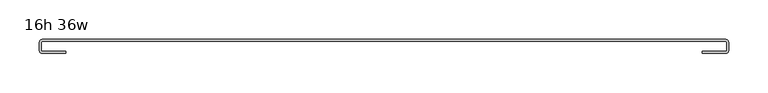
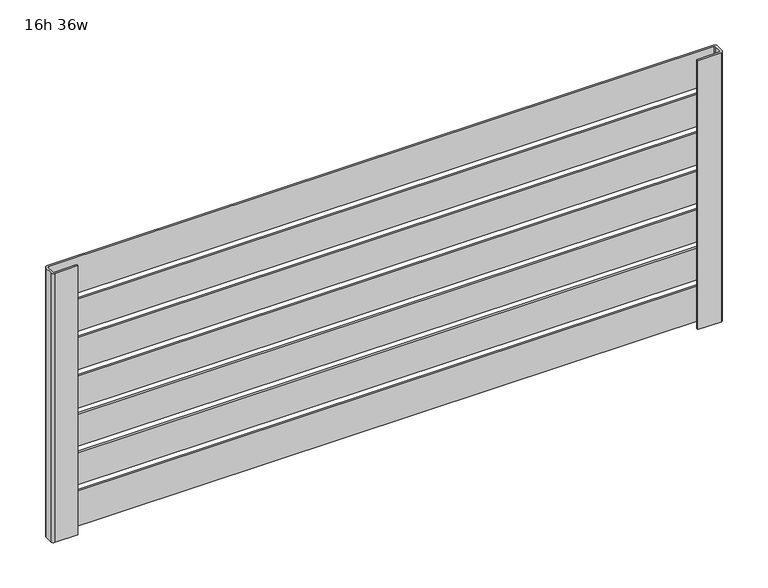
"""IFC4 building model written with IfcOpenShell, lengths in millimetres: furniture geometry, Haworth_BeHold_Accessory_SlatRail : 16h 36w."""

import ifcopenshell
import ifcopenshell.guid

model = None  # the IFC model being written
_history = None  # IfcOwnerHistory: only IFC2X3 demands one
_inside = {}  # id of a spatial element -> (the spatial element, [elements in it])
_under = {}  # id of a project, library or spatial element -> (it, [spatial elements below it])
_declared = {}  # id of a project -> (the project, [libraries it declares])
_typed = {}  # id of a type object -> (the type object, [elements of that type])
_made_of = {}  # id of a material, layer set ... -> (it, [elements and type objects made of it])


def new_model(schema):
    """Start an empty IFC model of exactly this schema.

    Asked for "IFC4X3", IfcOpenShell would pick the latest addendum, in which some entities
    have other attributes; the version numbers below select the first issue.
    IFC2X3 requires an IfcOwnerHistory on every rooted entity: one is made here for all.
    """
    global model, _history
    if schema == "IFC4X3":
        model = ifcopenshell.file(schema_version=(4, 3, 0, 0))
    else:
        model = ifcopenshell.file(schema=schema)
    _inside.clear()
    _under.clear()
    _declared.clear()
    _typed.clear()
    _made_of.clear()
    _history = None
    if model.schema == "IFC2X3":
        org = make("IfcOrganization", Name="unknown")
        user = make(
            "IfcPersonAndOrganization",
            ThePerson=make("IfcPerson", FamilyName="unknown"),
            TheOrganization=org,
        )
        app = make(
            "IfcApplication",
            ApplicationDeveloper=org,
            Version="unknown",
            ApplicationFullName="unknown",
            ApplicationIdentifier="unknown",
        )
        _history = make(
            "IfcOwnerHistory",
            OwningUser=user,
            OwningApplication=app,
            ChangeAction="ADDED",
            CreationDate=0,
        )
    return model


def make(cls, **values):
    """One entity of the class cls with the attributes given. An attribute that is None is left unset."""
    return model.create_entity(
        cls, **{name: value for name, value in values.items() if value is not None}
    )


def rooted(cls, **values):
    """An entity with a GlobalId (a new one), such as an element, a storey or a relation."""
    return make(cls, GlobalId=ifcopenshell.guid.new(), OwnerHistory=_history, **values)


def si_unit(unit_type, name, prefix=None):
    """IfcSIUnit, for example si_unit("LENGTHUNIT", "METRE", prefix="MILLI")."""
    return make("IfcSIUnit", UnitType=unit_type, Prefix=prefix, Name=name)


def assignment(units):
    """IfcUnitAssignment: the units of a project."""
    return None if units is None else make("IfcUnitAssignment", Units=units)


def point(xyz):
    """IfcCartesianPoint."""
    return None if xyz is None else make("IfcCartesianPoint", Coordinates=xyz)


def direction(xyz):
    """IfcDirection."""
    return None if xyz is None else make("IfcDirection", DirectionRatios=xyz)


def frame(location, z_axis=None, x_axis=None):
    """IfcAxis2Placement3D, a coordinate frame: its origin and axes. An axis left out is left unset."""
    return make(
        "IfcAxis2Placement3D",
        Location=point(location),
        Axis=direction(z_axis),
        RefDirection=direction(x_axis),
    )


def origin():
    """The frame at (0, 0, 0) with its axes left unset."""
    return frame((0.0, 0.0, 0.0))


def place(relative_to, where):
    """IfcLocalPlacement: puts the frame where relative to a parent placement (None: the world)."""
    return make(
        "IfcLocalPlacement", PlacementRelTo=relative_to, RelativePlacement=where
    )


def context(
    kind, dimensions, precision=None, world=None, true_north=None, identifier=None
):
    """IfcGeometricRepresentationContext, for example the 3D "Model" context."""
    return make(
        "IfcGeometricRepresentationContext",
        ContextIdentifier=identifier,
        ContextType=kind,
        CoordinateSpaceDimension=dimensions,
        Precision=precision,
        WorldCoordinateSystem=world,
        TrueNorth=true_north,
    )


def project(units=None, contexts=None):
    """IfcProject with its units and contexts."""
    return rooted(
        "IfcProject",
        Name="project",
        RepresentationContexts=contexts,
        UnitsInContext=assignment(units),
    )


def spatial(cls, under=None, at=None, **own):
    """A site, building, storey or space (cls), placed at a placement, below another one or the project."""
    s = rooted(cls, ObjectPlacement=at, **own)
    if under is not None:
        _under.setdefault(under.id(), (under, []))[1].append(s)
    return s


def polyline(points):
    """IfcPolyline through the points."""
    return make("IfcPolyline", Points=[point(p) for p in points])


def circle_curve(where, radius):
    """IfcCircle in the frame where."""
    return make("IfcCircle", Position=where, Radius=radius)


def shape(context_of_items, identifier, shape_type, items):
    """IfcShapeRepresentation: the items that make up one representation, for example the "Body"."""
    return make(
        "IfcShapeRepresentation",
        ContextOfItems=context_of_items,
        RepresentationIdentifier=identifier,
        RepresentationType=shape_type,
        Items=items,
    )


def source(mapping_origin, context_of_items, identifier, shape_type, items):
    """IfcRepresentationMap: a shape defined once, which mapped items show again and again."""
    return make(
        "IfcRepresentationMap",
        MappingOrigin=mapping_origin,
        MappedRepresentation=shape(context_of_items, identifier, shape_type, items),
    )


def transform(
    local_origin,
    x_axis=None,
    y_axis=None,
    z_axis=None,
    scale=None,
    scale2=None,
    scale3=None,
    uniform=True,
):
    """IfcCartesianTransformationOperator3D, or its non-uniform kind. x_axis, y_axis, z_axis: its Axis1, 2, 3."""
    if uniform:
        return make(
            "IfcCartesianTransformationOperator3D",
            Axis1=direction(x_axis),
            Axis2=direction(y_axis),
            LocalOrigin=point(local_origin),
            Scale=scale,
            Axis3=direction(z_axis),
        )
    return make(
        "IfcCartesianTransformationOperator3DnonUniform",
        Axis1=direction(x_axis),
        Axis2=direction(y_axis),
        LocalOrigin=point(local_origin),
        Scale=scale,
        Axis3=direction(z_axis),
        Scale2=scale2,
        Scale3=scale3,
    )


def mapped(mapping_source, mapping_target):
    """IfcMappedItem: shows the shape of a source again, moved by a transform."""
    return make(
        "IfcMappedItem", MappingSource=mapping_source, MappingTarget=mapping_target
    )


def made_of(thing, what):
    """Note that an element or type object is made of a material, layer set ...; save() writes the relation."""
    if what is not None:
        _made_of.setdefault(what.id(), (what, []))[1].append(thing)
    return thing


def element(
    cls,
    number,
    at=None,
    inside=None,
    cuts=None,
    type_object=None,
    material=None,
    context=None,
    identifier="Body",
    shape_type=None,
    held_by="IfcProductDefinitionShape",
    body=None,
    shapes=None,
    **own,
):
    """One element of the class cls, such as IfcWall. Its Tag is "e" and its number.

    at: its placement. inside: the storey or other place that contains it. cuts: it is an
    opening in that element (IfcRelVoidsElement). A single representation is given by context,
    identifier, shape_type and body (its items); several are given by shapes. held_by: the class
    of the entity that holds the representations. save() writes the other relations.
    """
    e = rooted(cls, Tag="e%d" % number, ObjectPlacement=at, **own)
    if body is not None:
        shapes = [shape(context, identifier, shape_type, body)]
    if shapes is not None:
        e.Representation = make(held_by, Representations=shapes)
    if inside is not None:
        _inside.setdefault(inside.id(), (inside, []))[1].append(e)
    if cuts is not None:
        rooted(
            "IfcRelVoidsElement", RelatingBuildingElement=cuts, RelatedOpeningElement=e
        )
    if type_object is not None:
        _typed.setdefault(type_object.id(), (type_object, []))[1].append(e)
    return made_of(e, material)


def aggregate(whole, parts):
    """IfcRelAggregates: a whole, such as a stair, and the parts it consists of."""
    return rooted("IfcRelAggregates", RelatingObject=whole, RelatedObjects=parts)


def save(model, path):
    """Write the relations noted so far, then the file.

    IfcRelAggregates (storeys below a building ...), IfcRelContainedInSpatialStructure (elements
    in a storey), IfcRelDefinesByType, IfcRelAssociatesMaterial and IfcRelDeclares: one each for
    every whole, place, type object, material and project.
    """
    for whole, parts in _under.values():
        aggregate(whole, parts)
    for where, things in _inside.values():
        rooted(
            "IfcRelContainedInSpatialStructure",
            RelatedElements=things,
            RelatingStructure=where,
        )
    for kind, things in _typed.values():
        rooted("IfcRelDefinesByType", RelatedObjects=things, RelatingType=kind)
    for what, things in _made_of.values():
        rooted("IfcRelAssociatesMaterial", RelatedObjects=things, RelatingMaterial=what)
    for by, libraries in _declared.values():
        rooted("IfcRelDeclares", RelatingContext=by, RelatedDefinitions=libraries)
    model.write(path)


def plane_surface(at):
    """IfcPlane: the flat surface through the origin of the frame at, square to its z axis."""
    return make("IfcPlane", Position=at)


def cylinder_surface(at, radius):
    """IfcCylindricalSurface: all points at the distance radius from the z axis of the frame at."""
    return make("IfcCylindricalSurface", Position=at, Radius=radius)


def revolved_surface(curve, axis_point, axis_direction):
    """IfcSurfaceOfRevolution: the curve turned about the line through axis_point along axis_direction."""
    return make(
        "IfcSurfaceOfRevolution",
        SweptCurve=make("IfcArbitraryOpenProfileDef", ProfileType="CURVE", Curve=curve),
        AxisPosition=make("IfcAxis1Placement", Location=point(axis_point), Axis=direction(axis_direction)),
    )


def advanced_brep(points, edges, surfaces, faces):
    """IfcAdvancedBrep: a solid bounded by faces that lie on surfaces and meet in shared edges.

    An edge is (start, end): straight between two places in points (the first is 0);
    or (start, end, curve); or (start, end, curve, False) where it runs against its curve.
    A face is (place in surfaces, loops), or (place, loops, False) where it looks against
    its surface's normal. A loop lists edges by number (the first is 1), with a minus sign
    where the edge is run from its end to its start. The first loop is the outer one.
    """
    corners = [point(p) for p in points]
    vertices = [make("IfcVertexPoint", VertexGeometry=c) for c in corners]
    made = []
    for start, end, *more in edges:
        made.append(
            make(
                "IfcEdgeCurve",
                EdgeStart=vertices[start],
                EdgeEnd=vertices[end],
                EdgeGeometry=more[0] if more else make("IfcPolyline", Points=[corners[start], corners[end]]),
                SameSense=more[1] if len(more) > 1 else True,
            )
        )
    hull = []
    for where, loops, *sense in faces:
        bounds = []
        for j, loop in enumerate(loops):
            ring = [make("IfcOrientedEdge", EdgeElement=made[abs(k) - 1], Orientation=k > 0) for k in loop]
            bounds.append(
                make(
                    "IfcFaceOuterBound" if j == 0 else "IfcFaceBound",
                    Bound=make("IfcEdgeLoop", EdgeList=ring),
                    Orientation=True,
                )
            )
        hull.append(make("IfcAdvancedFace", Bounds=bounds, FaceSurface=surfaces[where], SameSense=sense[0] if sense else True))
    return make("IfcAdvancedBrep", Outer=make("IfcClosedShell", CfsFaces=hull))


def furniture_16h_36w_8c3512c3(model_context):
    return source(origin(), model_context, "Body", "AdvancedBrep", [
        advanced_brep(
        [(276.0322509, -285.75, 1290.6375), (277.0244384, -286.7421875, 1290.6375), (277.0244384, -297.4539983, 1290.6375), (276.0284367, -298.45, 1290.6375), (246.0645065, -298.45, 1290.6375), (246.0645065, -300.83125, 1290.6375), (276.0682534, -300.83125, 1290.6375), (279.4056884, -297.493815, 1290.6375), (279.4056884, -286.7421875, 1290.6375), (276.0322509, -283.36875, 1290.6375), (-589.7505616, -283.36875, 1290.6375), (-593.1239991, -286.7421875, 1290.6375), (-593.1239991, -297.493815, 1290.6375), (-589.7865641, -300.83125, 1290.6375), (-559.7828171, -300.83125, 1290.6375), (-559.7828171, -298.45, 1290.6375), (-589.7467474, -298.45, 1290.6375), (-590.7427491, -297.4539983, 1290.6375), (-590.7427491, -286.7421875, 1290.6375), (-589.7505616, -285.75, 1290.6375), (276.0322509, -285.75, 920.75), (-589.7505616, -285.75, 920.75), (-590.7427491, -286.7421875, 920.75), (-590.7427491, -297.4539983, 920.75), (-589.7467474, -298.45, 920.75), (-559.7828171, -298.45, 920.75), (-559.7828171, -300.83125, 920.75), (-589.7865641, -300.83125, 920.75), (-593.1239991, -297.493815, 920.75), (-593.1239991, -286.7421875, 920.75), (-589.7505616, -283.36875, 920.75), (276.0322509, -283.36875, 920.75), (279.4056884, -286.7421875, 920.75), (279.4056884, -297.493815, 920.75), (276.0682534, -300.83125, 920.75), (246.0645065, -300.83125, 920.75), (246.0645065, -298.45, 920.75), (276.0284367, -298.45, 920.75), (277.0244384, -297.4539983, 920.75), (277.0244384, -286.7421875, 920.75), (-566.9137772, -283.36875, 1127.1885438), (253.1954665, -283.36875, 1127.1885438), (255.5767165, -283.36875, 1129.5697938), (255.5767165, -283.36875, 1133.0622951), (253.1954665, -283.36875, 1135.4435451), (-566.9137772, -283.36875, 1135.4435451), (-569.2950272, -283.36875, 1133.0622951), (-569.2950272, -283.36875, 1129.5697938), (-566.9137772, -283.36875, 1074.3565443), (253.1954665, -283.36875, 1074.3565443), (255.5767165, -283.36875, 1076.7377943), (255.5767165, -283.36875, 1080.2302955), (253.1954665, -283.36875, 1082.6115455), (-566.9137772, -283.36875, 1082.6115455), (-569.2950272, -283.36875, 1080.2302955), (-569.2950272, -283.36875, 1076.7377943), (-566.9137772, -283.36875, 1021.5245447), (253.1954665, -283.36875, 1021.5245447), (255.5767165, -283.36875, 1023.9057947), (255.5767165, -283.36875, 1027.3982959), (253.1954665, -283.36875, 1029.7795459), (-566.9137772, -283.36875, 1029.7795459), (-569.2950272, -283.36875, 1027.3982959), (-569.2950272, -283.36875, 1023.9057947), (-566.9137772, -283.36875, 968.6925428), (253.1954665, -283.36875, 968.6925428), (255.5767165, -283.36875, 971.0737928), (255.5767165, -283.36875, 974.5662941), (253.1954665, -283.36875, 976.9475441), (-566.9137772, -283.36875, 976.9475441), (-569.2950272, -283.36875, 974.5662941), (-569.2950272, -283.36875, 971.0737928), (-566.9137772, -283.36875, 1180.020548), (253.1954665, -283.36875, 1180.020548), (255.5767165, -283.36875, 1182.401798), (255.5767165, -283.36875, 1185.8942992), (253.1954665, -283.36875, 1188.2755492), (-566.9137772, -283.36875, 1188.2755492), (-569.2950272, -283.36875, 1185.8942992), (-569.2950272, -283.36875, 1182.401798), (-566.9137772, -283.36875, 1232.8525521), (253.1954665, -283.36875, 1232.8525521), (255.5767165, -283.36875, 1235.2338021), (255.5767165, -283.36875, 1238.7263033), (253.1954665, -283.36875, 1241.1075533), (-566.9137772, -283.36875, 1241.1075533), (-569.2950272, -283.36875, 1238.7263033), (-569.2950272, -283.36875, 1235.2338021), (253.1954665, -285.75, 1127.1885438), (-566.9137772, -285.75, 1127.1885438), (-569.2950272, -285.75, 1129.5697938), (-569.2950272, -285.75, 1133.0622951), (-566.9137772, -285.75, 1135.4435451), (253.1954665, -285.75, 1135.4435451), (255.5767165, -285.75, 1133.0622951), (255.5767165, -285.75, 1129.5697938), (253.1954665, -285.75, 1074.3565443), (-566.9137772, -285.75, 1074.3565443), (-569.2950272, -285.75, 1076.7377943), (-569.2950272, -285.75, 1080.2302955), (-566.9137772, -285.75, 1082.6115455), (253.1954665, -285.75, 1082.6115455), (255.5767165, -285.75, 1080.2302955), (255.5767165, -285.75, 1076.7377943), (253.1954665, -285.75, 1021.5245447), (-566.9137772, -285.75, 1021.5245447), (-569.2950272, -285.75, 1023.9057947), (-569.2950272, -285.75, 1027.3982959), (-566.9137772, -285.75, 1029.7795459), (253.1954665, -285.75, 1029.7795459), (255.5767165, -285.75, 1027.3982959), (255.5767165, -285.75, 1023.9057947), (253.1954665, -285.75, 968.6925428), (-566.9137772, -285.75, 968.6925428), (-569.2950272, -285.75, 971.0737928), (-569.2950272, -285.75, 974.5662941), (-566.9137772, -285.75, 976.9475441), (253.1954665, -285.75, 976.9475441), (255.5767165, -285.75, 974.5662941), (255.5767165, -285.75, 971.0737928), (253.1954665, -285.75, 1180.020548), (-566.9137772, -285.75, 1180.020548), (-569.2950272, -285.75, 1182.401798), (-569.2950272, -285.75, 1185.8942992), (-566.9137772, -285.75, 1188.2755492), (253.1954665, -285.75, 1188.2755492), (255.5767165, -285.75, 1185.8942992), (255.5767165, -285.75, 1182.401798), (253.1954665, -285.75, 1232.8525521), (-566.9137772, -285.75, 1232.8525521), (-569.2950272, -285.75, 1235.2338021), (-569.2950272, -285.75, 1238.7263033), (-566.9137772, -285.75, 1241.1075533), (253.1954665, -285.75, 1241.1075533), (255.5767165, -285.75, 1238.7263033), (255.5767165, -285.75, 1235.2338021)],
        [
            (0, 1, circle_curve(frame((276.0322509, -286.7421875, 1290.6375), z_axis=(0.0, 0.0, -1.0), x_axis=(0.0, -1.0, 0.0)), 0.9921875)),
            (1, 2),
            (2, 3, circle_curve(frame((276.0284367, -297.4539983, 1290.6375), z_axis=(0.0, 0.0, -1.0), x_axis=(0.0, -1.0, 0.0)), 0.9960017)),
            (3, 4),
            (4, 5),
            (5, 6),
            (6, 7, circle_curve(frame((276.0682534, -297.493815, 1290.6375), z_axis=(0.0, 0.0, 1.0), x_axis=(0.0, -1.0, 0.0)), 3.337435)),
            (7, 8),
            (8, 9, circle_curve(frame((276.0322509, -286.7421875, 1290.6375), z_axis=(0.0, 0.0, 1.0), x_axis=(0.0, -1.0, 0.0)), 3.3734375)),
            (9, 10),
            (10, 11, circle_curve(frame((-589.7505616, -286.7421875, 1290.6375), z_axis=(0.0, 0.0, 1.0), x_axis=(0.0, -1.0, 0.0)), 3.3734375)),
            (11, 12),
            (12, 13, circle_curve(frame((-589.7865641, -297.493815, 1290.6375), z_axis=(0.0, 0.0, 1.0), x_axis=(0.0, -1.0, 0.0)), 3.337435)),
            (13, 14),
            (14, 15),
            (15, 16),
            (16, 17, circle_curve(frame((-589.7467474, -297.4539983, 1290.6375), z_axis=(0.0, 0.0, -1.0), x_axis=(0.0, -1.0, 0.0)), 0.9960017)),
            (17, 18),
            (18, 19, circle_curve(frame((-589.7505616, -286.7421875, 1290.6375), z_axis=(0.0, 0.0, -1.0), x_axis=(0.0, -1.0, 0.0)), 0.9921875)),
            (19, 0),
            (20, 21),
            (21, 22, circle_curve(frame((-589.7505616, -286.7421875, 920.75), z_axis=(0.0, 0.0, 1.0), x_axis=(0.0, -1.0, 0.0)), 0.9921875)),
            (22, 23),
            (23, 24, circle_curve(frame((-589.7467474, -297.4539983, 920.75), z_axis=(0.0, 0.0, 1.0), x_axis=(0.0, -1.0, 0.0)), 0.9960017)),
            (24, 25),
            (25, 26),
            (26, 27),
            (27, 28, circle_curve(frame((-589.7865641, -297.493815, 920.75), z_axis=(0.0, 0.0, -1.0), x_axis=(0.0, -1.0, 0.0)), 3.337435)),
            (28, 29),
            (29, 30, circle_curve(frame((-589.7505616, -286.7421875, 920.75), z_axis=(0.0, 0.0, -1.0), x_axis=(0.0, -1.0, 0.0)), 3.3734375)),
            (30, 31),
            (31, 32, circle_curve(frame((276.0322509, -286.7421875, 920.75), z_axis=(0.0, 0.0, -1.0), x_axis=(0.0, -1.0, 0.0)), 3.3734375)),
            (32, 33),
            (33, 34, circle_curve(frame((276.0682534, -297.493815, 920.75), z_axis=(0.0, 0.0, -1.0), x_axis=(0.0, -1.0, 0.0)), 3.337435)),
            (34, 35),
            (35, 36),
            (36, 37),
            (37, 38, circle_curve(frame((276.0284367, -297.4539983, 920.75), z_axis=(0.0, 0.0, 1.0), x_axis=(0.0, -1.0, 0.0)), 0.9960017)),
            (38, 39),
            (39, 20, circle_curve(frame((276.0322509, -286.7421875, 920.75), z_axis=(0.0, 0.0, 1.0), x_axis=(0.0, -1.0, 0.0)), 0.9921875)),
            (0, 20),
            (39, 1),
            (38, 2),
            (37, 3),
            (36, 4),
            (35, 5),
            (34, 6),
            (33, 7),
            (32, 8),
            (31, 9),
            (30, 10),
            (40, 41),
            (41, 42, circle_curve(frame((253.1954665, -283.36875, 1129.5697938), z_axis=(0.0, -1.0, 0.0), x_axis=(1.0, 0.0, 0.0)), 2.38125)),
            (42, 43),
            (43, 44, circle_curve(frame((253.1954665, -283.36875, 1133.0622951), z_axis=(0.0, -1.0, 0.0), x_axis=(1.0, 0.0, 0.0)), 2.38125)),
            (44, 45),
            (45, 46, circle_curve(frame((-566.9137772, -283.36875, 1133.0622951), z_axis=(0.0, -1.0, 0.0), x_axis=(1.0, 0.0, 0.0)), 2.38125)),
            (46, 47),
            (47, 40, circle_curve(frame((-566.9137772, -283.36875, 1129.5697938), z_axis=(0.0, -1.0, 0.0), x_axis=(1.0, 0.0, 0.0)), 2.38125)),
            (48, 49),
            (49, 50, circle_curve(frame((253.1954665, -283.36875, 1076.7377943), z_axis=(0.0, -1.0, 0.0), x_axis=(1.0, 0.0, 0.0)), 2.38125)),
            (50, 51),
            (51, 52, circle_curve(frame((253.1954665, -283.36875, 1080.2302955), z_axis=(0.0, -1.0, 0.0), x_axis=(1.0, 0.0, 0.0)), 2.38125)),
            (52, 53),
            (53, 54, circle_curve(frame((-566.9137772, -283.36875, 1080.2302955), z_axis=(0.0, -1.0, 0.0), x_axis=(1.0, 0.0, 0.0)), 2.38125)),
            (54, 55),
            (55, 48, circle_curve(frame((-566.9137772, -283.36875, 1076.7377943), z_axis=(0.0, -1.0, 0.0), x_axis=(1.0, 0.0, 0.0)), 2.38125)),
            (56, 57),
            (57, 58, circle_curve(frame((253.1954665, -283.36875, 1023.9057947), z_axis=(0.0, -1.0, 0.0), x_axis=(1.0, 0.0, 0.0)), 2.38125)),
            (58, 59),
            (59, 60, circle_curve(frame((253.1954665, -283.36875, 1027.3982959), z_axis=(0.0, -1.0, 0.0), x_axis=(1.0, 0.0, 0.0)), 2.38125)),
            (60, 61),
            (61, 62, circle_curve(frame((-566.9137772, -283.36875, 1027.3982959), z_axis=(0.0, -1.0, 0.0), x_axis=(1.0, 0.0, 0.0)), 2.38125)),
            (62, 63),
            (63, 56, circle_curve(frame((-566.9137772, -283.36875, 1023.9057947), z_axis=(0.0, -1.0, 0.0), x_axis=(1.0, 0.0, 0.0)), 2.38125)),
            (64, 65),
            (65, 66, circle_curve(frame((253.1954665, -283.36875, 971.0737928), z_axis=(0.0, -1.0, 0.0), x_axis=(1.0, 0.0, 0.0)), 2.38125)),
            (66, 67),
            (67, 68, circle_curve(frame((253.1954665, -283.36875, 974.5662941), z_axis=(0.0, -1.0, 0.0), x_axis=(1.0, 0.0, 0.0)), 2.38125)),
            (68, 69),
            (69, 70, circle_curve(frame((-566.9137772, -283.36875, 974.5662941), z_axis=(0.0, -1.0, 0.0), x_axis=(1.0, 0.0, 0.0)), 2.38125)),
            (70, 71),
            (71, 64, circle_curve(frame((-566.9137772, -283.36875, 971.0737928), z_axis=(0.0, -1.0, 0.0), x_axis=(1.0, 0.0, 0.0)), 2.38125)),
            (72, 73),
            (73, 74, circle_curve(frame((253.1954665, -283.36875, 1182.401798), z_axis=(0.0, -1.0, 0.0), x_axis=(1.0, 0.0, 0.0)), 2.38125)),
            (74, 75),
            (75, 76, circle_curve(frame((253.1954665, -283.36875, 1185.8942992), z_axis=(0.0, -1.0, 0.0), x_axis=(1.0, 0.0, 0.0)), 2.38125)),
            (76, 77),
            (77, 78, circle_curve(frame((-566.9137772, -283.36875, 1185.8942992), z_axis=(0.0, -1.0, 0.0), x_axis=(1.0, 0.0, 0.0)), 2.38125)),
            (78, 79),
            (79, 72, circle_curve(frame((-566.9137772, -283.36875, 1182.401798), z_axis=(0.0, -1.0, 0.0), x_axis=(1.0, 0.0, 0.0)), 2.38125)),
            (80, 81),
            (81, 82, circle_curve(frame((253.1954665, -283.36875, 1235.2338021), z_axis=(0.0, -1.0, 0.0), x_axis=(1.0, 0.0, 0.0)), 2.38125)),
            (82, 83),
            (83, 84, circle_curve(frame((253.1954665, -283.36875, 1238.7263033), z_axis=(0.0, -1.0, 0.0), x_axis=(1.0, 0.0, 0.0)), 2.38125)),
            (84, 85),
            (85, 86, circle_curve(frame((-566.9137772, -283.36875, 1238.7263033), z_axis=(0.0, -1.0, 0.0), x_axis=(1.0, 0.0, 0.0)), 2.38125)),
            (86, 87),
            (87, 80, circle_curve(frame((-566.9137772, -283.36875, 1235.2338021), z_axis=(0.0, -1.0, 0.0), x_axis=(1.0, 0.0, 0.0)), 2.38125)),
            (29, 11),
            (28, 12),
            (27, 13),
            (26, 14),
            (25, 15),
            (24, 16),
            (23, 17),
            (22, 18),
            (21, 19),
            (88, 89),
            (89, 90, circle_curve(frame((-566.9137772, -285.75, 1129.5697938), z_axis=(0.0, 1.0, 0.0), x_axis=(1.0, 0.0, 0.0)), 2.38125)),
            (90, 91),
            (91, 92, circle_curve(frame((-566.9137772, -285.75, 1133.0622951), z_axis=(0.0, 1.0, 0.0), x_axis=(1.0, 0.0, 0.0)), 2.38125)),
            (92, 93),
            (93, 94, circle_curve(frame((253.1954665, -285.75, 1133.0622951), z_axis=(0.0, 1.0, 0.0), x_axis=(1.0, 0.0, 0.0)), 2.38125)),
            (94, 95),
            (95, 88, circle_curve(frame((253.1954665, -285.75, 1129.5697938), z_axis=(0.0, 1.0, 0.0), x_axis=(1.0, 0.0, 0.0)), 2.38125)),
            (96, 97),
            (97, 98, circle_curve(frame((-566.9137772, -285.75, 1076.7377943), z_axis=(0.0, 1.0, 0.0), x_axis=(1.0, 0.0, 0.0)), 2.38125)),
            (98, 99),
            (99, 100, circle_curve(frame((-566.9137772, -285.75, 1080.2302955), z_axis=(0.0, 1.0, 0.0), x_axis=(1.0, 0.0, 0.0)), 2.38125)),
            (100, 101),
            (101, 102, circle_curve(frame((253.1954665, -285.75, 1080.2302955), z_axis=(0.0, 1.0, 0.0), x_axis=(1.0, 0.0, 0.0)), 2.38125)),
            (102, 103),
            (103, 96, circle_curve(frame((253.1954665, -285.75, 1076.7377943), z_axis=(0.0, 1.0, 0.0), x_axis=(1.0, 0.0, 0.0)), 2.38125)),
            (104, 105),
            (105, 106, circle_curve(frame((-566.9137772, -285.75, 1023.9057947), z_axis=(0.0, 1.0, 0.0), x_axis=(1.0, 0.0, 0.0)), 2.38125)),
            (106, 107),
            (107, 108, circle_curve(frame((-566.9137772, -285.75, 1027.3982959), z_axis=(0.0, 1.0, 0.0), x_axis=(1.0, 0.0, 0.0)), 2.38125)),
            (108, 109),
            (109, 110, circle_curve(frame((253.1954665, -285.75, 1027.3982959), z_axis=(0.0, 1.0, 0.0), x_axis=(1.0, 0.0, 0.0)), 2.38125)),
            (110, 111),
            (111, 104, circle_curve(frame((253.1954665, -285.75, 1023.9057947), z_axis=(0.0, 1.0, 0.0), x_axis=(1.0, 0.0, 0.0)), 2.38125)),
            (112, 113),
            (113, 114, circle_curve(frame((-566.9137772, -285.75, 971.0737928), z_axis=(0.0, 1.0, 0.0), x_axis=(1.0, 0.0, 0.0)), 2.38125)),
            (114, 115),
            (115, 116, circle_curve(frame((-566.9137772, -285.75, 974.5662941), z_axis=(0.0, 1.0, 0.0), x_axis=(1.0, 0.0, 0.0)), 2.38125)),
            (116, 117),
            (117, 118, circle_curve(frame((253.1954665, -285.75, 974.5662941), z_axis=(0.0, 1.0, 0.0), x_axis=(1.0, 0.0, 0.0)), 2.38125)),
            (118, 119),
            (119, 112, circle_curve(frame((253.1954665, -285.75, 971.0737928), z_axis=(0.0, 1.0, 0.0), x_axis=(1.0, 0.0, 0.0)), 2.38125)),
            (120, 121),
            (121, 122, circle_curve(frame((-566.9137772, -285.75, 1182.401798), z_axis=(0.0, 1.0, 0.0), x_axis=(1.0, 0.0, 0.0)), 2.38125)),
            (122, 123),
            (123, 124, circle_curve(frame((-566.9137772, -285.75, 1185.8942992), z_axis=(0.0, 1.0, 0.0), x_axis=(1.0, 0.0, 0.0)), 2.38125)),
            (124, 125),
            (125, 126, circle_curve(frame((253.1954665, -285.75, 1185.8942992), z_axis=(0.0, 1.0, 0.0), x_axis=(1.0, 0.0, 0.0)), 2.38125)),
            (126, 127),
            (127, 120, circle_curve(frame((253.1954665, -285.75, 1182.401798), z_axis=(0.0, 1.0, 0.0), x_axis=(1.0, 0.0, 0.0)), 2.38125)),
            (128, 129),
            (129, 130, circle_curve(frame((-566.9137772, -285.75, 1235.2338021), z_axis=(0.0, 1.0, 0.0), x_axis=(1.0, 0.0, 0.0)), 2.38125)),
            (130, 131),
            (131, 132, circle_curve(frame((-566.9137772, -285.75, 1238.7263033), z_axis=(0.0, 1.0, 0.0), x_axis=(1.0, 0.0, 0.0)), 2.38125)),
            (132, 133),
            (133, 134, circle_curve(frame((253.1954665, -285.75, 1238.7263033), z_axis=(0.0, 1.0, 0.0), x_axis=(1.0, 0.0, 0.0)), 2.38125)),
            (134, 135),
            (135, 128, circle_curve(frame((253.1954665, -285.75, 1235.2338021), z_axis=(0.0, 1.0, 0.0), x_axis=(1.0, 0.0, 0.0)), 2.38125)),
            (88, 41),
            (40, 89),
            (47, 90),
            (46, 91),
            (45, 92),
            (44, 93),
            (43, 94),
            (42, 95),
            (96, 49),
            (48, 97),
            (55, 98),
            (54, 99),
            (53, 100),
            (52, 101),
            (51, 102),
            (50, 103),
            (104, 57),
            (56, 105),
            (63, 106),
            (62, 107),
            (61, 108),
            (60, 109),
            (59, 110),
            (58, 111),
            (112, 65),
            (64, 113),
            (71, 114),
            (70, 115),
            (69, 116),
            (68, 117),
            (67, 118),
            (66, 119),
            (120, 73),
            (72, 121),
            (79, 122),
            (78, 123),
            (77, 124),
            (76, 125),
            (75, 126),
            (74, 127),
            (128, 81),
            (80, 129),
            (87, 130),
            (86, 131),
            (85, 132),
            (84, 133),
            (83, 134),
            (82, 135),
        ],
        [
            plane_surface(frame((-156.8591553, -292.1, 1290.6375), z_axis=(0.0, 0.0, 1.0), x_axis=(0.0, -1.0, 0.0))),
            plane_surface(frame((-156.8591553, -292.1, 920.75), z_axis=(0.0, 0.0, -1.0), x_axis=(0.0, -1.0, 0.0))),
            revolved_surface(polyline([(276.0322509, -287.734375, 920.75), (276.0322509, -287.734375, 1290.6375)]), (276.0322509, -286.7421875, 1290.6375), (0.0, 0.0, -1.0)),
            plane_surface(frame((277.0244384, -286.7421875, 1290.6375), z_axis=(-1.0, 0.0, 0.0), x_axis=(0.0, 0.0, -1.0))),
            revolved_surface(polyline([(276.0284367, -298.45000000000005, 920.75), (276.0284367, -298.45000000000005, 1290.6375)]), (276.0284367, -297.4539983, 1290.6375), (0.0, 0.0, -1.0)),
            plane_surface(frame((276.0284367, -298.45, 1290.6375), z_axis=(0.0, 1.0, 0.0), x_axis=(0.0, 0.0, -1.0))),
            plane_surface(frame((246.0645065, -298.45, 1290.6375), z_axis=(-1.0, 0.0, 0.0), x_axis=(0.0, 0.0, -1.0))),
            plane_surface(frame((246.0645065, -300.83125, 1290.6375), z_axis=(0.0, -1.0, 0.0), x_axis=(0.0, 0.0, -1.0))),
            cylinder_surface(frame((276.0682534, -297.493815, 1290.6375), z_axis=(0.0, 0.0, 1.0), x_axis=(0.0, -1.0, 0.0)), 3.337435),
            plane_surface(frame((279.4056884, -297.493815, 1290.6375), z_axis=(1.0, 0.0, 0.0), x_axis=(0.0, 0.0, -1.0))),
            cylinder_surface(frame((276.0322509, -286.7421875, 1290.6375), z_axis=(0.0, 0.0, 1.0), x_axis=(0.0, -1.0, 0.0)), 3.3734375),
            plane_surface(frame((276.0322509, -283.36875, 1290.6375), z_axis=(0.0, 1.0, 0.0), x_axis=(0.0, 0.0, -1.0))),
            cylinder_surface(frame((-589.7505616, -286.7421875, 1290.6375), z_axis=(0.0, 0.0, 1.0), x_axis=(0.0, -1.0, 0.0)), 3.3734375),
            plane_surface(frame((-593.1239991, -286.7421875, 1290.6375), z_axis=(-1.0, 0.0, 0.0), x_axis=(0.0, 0.0, -1.0))),
            cylinder_surface(frame((-589.7865641, -297.493815, 1290.6375), z_axis=(0.0, 0.0, 1.0), x_axis=(0.0, -1.0, 0.0)), 3.337435),
            plane_surface(frame((-589.7865641, -300.83125, 1290.6375), z_axis=(0.0, -1.0, 0.0), x_axis=(0.0, 0.0, -1.0))),
            plane_surface(frame((-559.7828171, -300.83125, 1290.6375), z_axis=(1.0, 0.0, 0.0), x_axis=(0.0, 0.0, -1.0))),
            plane_surface(frame((-559.7828171, -298.45, 1290.6375), z_axis=(0.0, 1.0, 0.0), x_axis=(0.0, 0.0, -1.0))),
            revolved_surface(polyline([(-589.7467474, -298.45000000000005, 920.75), (-589.7467474, -298.45000000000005, 1290.6375)]), (-589.7467474, -297.4539983, 1290.6375), (0.0, 0.0, -1.0)),
            plane_surface(frame((-590.7427491, -297.4539983, 1290.6375), z_axis=(1.0, 0.0, 0.0), x_axis=(0.0, 0.0, -1.0))),
            revolved_surface(polyline([(-589.7505616, -287.734375, 920.75), (-589.7505616, -287.734375, 1290.6375)]), (-589.7505616, -286.7421875, 1290.6375), (0.0, 0.0, -1.0)),
            plane_surface(frame((-589.7505616, -285.75, 1290.6375), z_axis=(0.0, -1.0, 0.0), x_axis=(0.0, 0.0, -1.0))),
            plane_surface(frame((253.1954665, -266.7, 1127.1885438), z_axis=(0.0, 0.0, 1.0), x_axis=(0.0, -1.0, 0.0))),
            revolved_surface(polyline([(-564.5325272, -283.36875, 1129.5697938), (-564.5325272, -285.75, 1129.5697938)]), (-566.9137772, -266.7, 1129.5697938), (0.0, 1.0, 0.0)),
            plane_surface(frame((-569.2950272, -266.7, 1129.5697938), z_axis=(1.0, 0.0, 0.0), x_axis=(0.0, -1.0, 0.0))),
            revolved_surface(polyline([(-564.5325272, -283.36875, 1133.0622951), (-564.5325272, -285.75, 1133.0622951)]), (-566.9137772, -266.7, 1133.0622951), (0.0, 1.0, 0.0)),
            plane_surface(frame((-566.9137772, -266.7, 1135.4435451), z_axis=(0.0, 0.0, -1.0), x_axis=(0.0, -1.0, 0.0))),
            revolved_surface(polyline([(255.5767165, -283.36875, 1133.0622951), (255.5767165, -285.75, 1133.0622951)]), (253.1954665, -266.7, 1133.0622951), (0.0, 1.0, 0.0)),
            plane_surface(frame((255.5767165, -266.7, 1133.0622951), z_axis=(-1.0, 0.0, 0.0), x_axis=(0.0, -1.0, 0.0))),
            revolved_surface(polyline([(255.5767165, -283.36875, 1129.5697938), (255.5767165, -285.75, 1129.5697938)]), (253.1954665, -266.7, 1129.5697938), (0.0, 1.0, 0.0)),
            plane_surface(frame((253.1954665, -266.7, 1074.3565443), z_axis=(0.0, 0.0, 1.0), x_axis=(0.0, -1.0, 0.0))),
            revolved_surface(polyline([(-564.5325272, -283.36875, 1076.7377943), (-564.5325272, -285.75, 1076.7377943)]), (-566.9137772, -266.7, 1076.7377943), (0.0, 1.0, 0.0)),
            plane_surface(frame((-569.2950272, -266.7, 1076.7377943), z_axis=(1.0, 0.0, 0.0), x_axis=(0.0, -1.0, 0.0))),
            revolved_surface(polyline([(-564.5325272, -283.36875, 1080.2302955), (-564.5325272, -285.75, 1080.2302955)]), (-566.9137772, -266.7, 1080.2302955), (0.0, 1.0, 0.0)),
            plane_surface(frame((-566.9137772, -266.7, 1082.6115455), z_axis=(0.0, 0.0, -1.0), x_axis=(0.0, -1.0, 0.0))),
            revolved_surface(polyline([(255.5767165, -283.36875, 1080.2302955), (255.5767165, -285.75, 1080.2302955)]), (253.1954665, -266.7, 1080.2302955), (0.0, 1.0, 0.0)),
            plane_surface(frame((255.5767165, -266.7, 1080.2302955), z_axis=(-1.0, 0.0, 0.0), x_axis=(0.0, -1.0, 0.0))),
            revolved_surface(polyline([(255.5767165, -283.36875, 1076.7377943), (255.5767165, -285.75, 1076.7377943)]), (253.1954665, -266.7, 1076.7377943), (0.0, 1.0, 0.0)),
            plane_surface(frame((253.1954665, -266.7, 1021.5245447), z_axis=(0.0, 0.0, 1.0), x_axis=(0.0, -1.0, 0.0))),
            revolved_surface(polyline([(-564.5325272, -283.36875, 1023.9057947), (-564.5325272, -285.75, 1023.9057947)]), (-566.9137772, -266.7, 1023.9057947), (0.0, 1.0, 0.0)),
            plane_surface(frame((-569.2950272, -266.7, 1023.9057947), z_axis=(1.0, 0.0, 0.0), x_axis=(0.0, -1.0, 0.0))),
            revolved_surface(polyline([(-564.5325272, -283.36875, 1027.3982959), (-564.5325272, -285.75, 1027.3982959)]), (-566.9137772, -266.7, 1027.3982959), (0.0, 1.0, 0.0)),
            plane_surface(frame((-566.9137772, -266.7, 1029.7795459), z_axis=(0.0, 0.0, -1.0), x_axis=(0.0, -1.0, 0.0))),
            revolved_surface(polyline([(255.5767165, -283.36875, 1027.3982959), (255.5767165, -285.75, 1027.3982959)]), (253.1954665, -266.7, 1027.3982959), (0.0, 1.0, 0.0)),
            plane_surface(frame((255.5767165, -266.7, 1027.3982959), z_axis=(-1.0, 0.0, 0.0), x_axis=(0.0, -1.0, 0.0))),
            revolved_surface(polyline([(255.5767165, -283.36875, 1023.9057947), (255.5767165, -285.75, 1023.9057947)]), (253.1954665, -266.7, 1023.9057947), (0.0, 1.0, 0.0)),
            plane_surface(frame((253.1954665, -266.7, 968.6925428), z_axis=(0.0, 0.0, 1.0), x_axis=(0.0, -1.0, 0.0))),
            revolved_surface(polyline([(-564.5325272, -283.36875, 971.0737928), (-564.5325272, -285.75, 971.0737928)]), (-566.9137772, -266.7, 971.0737928), (0.0, 1.0, 0.0)),
            plane_surface(frame((-569.2950272, -266.7, 971.0737928), z_axis=(1.0, 0.0, 0.0), x_axis=(0.0, -1.0, 0.0))),
            revolved_surface(polyline([(-564.5325272, -283.36875, 974.5662941), (-564.5325272, -285.75, 974.5662941)]), (-566.9137772, -266.7, 974.5662941), (0.0, 1.0, 0.0)),
            plane_surface(frame((-566.9137772, -266.7, 976.9475441), z_axis=(0.0, 0.0, -1.0), x_axis=(0.0, -1.0, 0.0))),
            revolved_surface(polyline([(255.5767165, -283.36875, 974.5662941), (255.5767165, -285.75, 974.5662941)]), (253.1954665, -266.7, 974.5662941), (0.0, 1.0, 0.0)),
            plane_surface(frame((255.5767165, -266.7, 974.5662941), z_axis=(-1.0, 0.0, 0.0), x_axis=(0.0, -1.0, 0.0))),
            revolved_surface(polyline([(255.5767165, -283.36875, 971.0737928), (255.5767165, -285.75, 971.0737928)]), (253.1954665, -266.7, 971.0737928), (0.0, 1.0, 0.0)),
            plane_surface(frame((253.1954665, -266.7, 1180.020548), z_axis=(0.0, 0.0, 1.0), x_axis=(0.0, -1.0, 0.0))),
            revolved_surface(polyline([(-564.5325272, -283.36875, 1182.401798), (-564.5325272, -285.75, 1182.401798)]), (-566.9137772, -266.7, 1182.401798), (0.0, 1.0, 0.0)),
            plane_surface(frame((-569.2950272, -266.7, 1182.401798), z_axis=(1.0, 0.0, 0.0), x_axis=(0.0, -1.0, 0.0))),
            revolved_surface(polyline([(-564.5325272, -283.36875, 1185.8942992), (-564.5325272, -285.75, 1185.8942992)]), (-566.9137772, -266.7, 1185.8942992), (0.0, 1.0, 0.0)),
            plane_surface(frame((-566.9137772, -266.7, 1188.2755492), z_axis=(0.0, 0.0, -1.0), x_axis=(0.0, -1.0, 0.0))),
            revolved_surface(polyline([(255.5767165, -283.36875, 1185.8942992), (255.5767165, -285.75, 1185.8942992)]), (253.1954665, -266.7, 1185.8942992), (0.0, 1.0, 0.0)),
            plane_surface(frame((255.5767165, -266.7, 1185.8942992), z_axis=(-1.0, 0.0, 0.0), x_axis=(0.0, -1.0, 0.0))),
            revolved_surface(polyline([(255.5767165, -283.36875, 1182.401798), (255.5767165, -285.75, 1182.401798)]), (253.1954665, -266.7, 1182.401798), (0.0, 1.0, 0.0)),
            plane_surface(frame((253.1954665, -266.7, 1232.8525521), z_axis=(0.0, 0.0, 1.0), x_axis=(0.0, -1.0, 0.0))),
            revolved_surface(polyline([(-564.5325272, -283.36875, 1235.2338021), (-564.5325272, -285.75, 1235.2338021)]), (-566.9137772, -266.7, 1235.2338021), (0.0, 1.0, 0.0)),
            plane_surface(frame((-569.2950272, -266.7, 1235.2338021), z_axis=(1.0, 0.0, 0.0), x_axis=(0.0, -1.0, 0.0))),
            revolved_surface(polyline([(-564.5325272, -283.36875, 1238.7263033), (-564.5325272, -285.75, 1238.7263033)]), (-566.9137772, -266.7, 1238.7263033), (0.0, 1.0, 0.0)),
            plane_surface(frame((-566.9137772, -266.7, 1241.1075533), z_axis=(0.0, 0.0, -1.0), x_axis=(0.0, -1.0, 0.0))),
            revolved_surface(polyline([(255.5767165, -283.36875, 1238.7263033), (255.5767165, -285.75, 1238.7263033)]), (253.1954665, -266.7, 1238.7263033), (0.0, 1.0, 0.0)),
            plane_surface(frame((255.5767165, -266.7, 1238.7263033), z_axis=(-1.0, 0.0, 0.0), x_axis=(0.0, -1.0, 0.0))),
            revolved_surface(polyline([(255.5767165, -283.36875, 1235.2338021), (255.5767165, -285.75, 1235.2338021)]), (253.1954665, -266.7, 1235.2338021), (0.0, 1.0, 0.0)),
        ],
        [
            (0, [[1, 2, 3, 4, 5, 6, 7, 8, 9, 10, 11, 12, 13, 14, 15, 16, 17, 18, 19, 20]]),
            (1, [[21, 22, 23, 24, 25, 26, 27, 28, 29, 30, 31, 32, 33, 34, 35, 36, 37, 38, 39, 40]]),
            (2, [[-1, 41, -40, 42]]),
            (3, [[-2, -42, -39, 43]]),
            (4, [[-3, -43, -38, 44]]),
            (5, [[-4, -44, -37, 45]]),
            (6, [[-5, -45, -36, 46]]),
            (7, [[-6, -46, -35, 47]]),
            (8, [[-7, -47, -34, 48]]),
            (9, [[-8, -48, -33, 49]]),
            (10, [[-9, -49, -32, 50]]),
            (11, [[-10, -50, -31, 51], [52, 53, 54, 55, 56, 57, 58, 59], [60, 61, 62, 63, 64, 65, 66, 67], [68, 69, 70, 71, 72, 73, 74, 75], [76, 77, 78, 79, 80, 81, 82, 83], [84, 85, 86, 87, 88, 89, 90, 91], [92, 93, 94, 95, 96, 97, 98, 99]]),
            (12, [[-11, -51, -30, 100]]),
            (13, [[-12, -100, -29, 101]]),
            (14, [[-13, -101, -28, 102]]),
            (15, [[-14, -102, -27, 103]]),
            (16, [[-15, -103, -26, 104]]),
            (17, [[-16, -104, -25, 105]]),
            (18, [[-17, -105, -24, 106]]),
            (19, [[-18, -106, -23, 107]]),
            (20, [[-19, -107, -22, 108]]),
            (21, [[-20, -108, -21, -41], [109, 110, 111, 112, 113, 114, 115, 116], [117, 118, 119, 120, 121, 122, 123, 124], [125, 126, 127, 128, 129, 130, 131, 132], [133, 134, 135, 136, 137, 138, 139, 140], [141, 142, 143, 144, 145, 146, 147, 148], [149, 150, 151, 152, 153, 154, 155, 156]]),
            (22, [[157, -52, 158, -109]]),
            (23, [[-158, -59, 159, -110]]),
            (24, [[-159, -58, 160, -111]]),
            (25, [[-160, -57, 161, -112]]),
            (26, [[-161, -56, 162, -113]]),
            (27, [[-162, -55, 163, -114]]),
            (28, [[-163, -54, 164, -115]]),
            (29, [[-157, -116, -164, -53]]),
            (30, [[165, -60, 166, -117]]),
            (31, [[-166, -67, 167, -118]]),
            (32, [[-167, -66, 168, -119]]),
            (33, [[-168, -65, 169, -120]]),
            (34, [[-169, -64, 170, -121]]),
            (35, [[-170, -63, 171, -122]]),
            (36, [[-171, -62, 172, -123]]),
            (37, [[-165, -124, -172, -61]]),
            (38, [[173, -68, 174, -125]]),
            (39, [[-174, -75, 175, -126]]),
            (40, [[-175, -74, 176, -127]]),
            (41, [[-176, -73, 177, -128]]),
            (42, [[-177, -72, 178, -129]]),
            (43, [[-178, -71, 179, -130]]),
            (44, [[-179, -70, 180, -131]]),
            (45, [[-173, -132, -180, -69]]),
            (46, [[181, -76, 182, -133]]),
            (47, [[-182, -83, 183, -134]]),
            (48, [[-183, -82, 184, -135]]),
            (49, [[-184, -81, 185, -136]]),
            (50, [[-185, -80, 186, -137]]),
            (51, [[-186, -79, 187, -138]]),
            (52, [[-187, -78, 188, -139]]),
            (53, [[-181, -140, -188, -77]]),
            (54, [[189, -84, 190, -141]]),
            (55, [[-190, -91, 191, -142]]),
            (56, [[-191, -90, 192, -143]]),
            (57, [[-192, -89, 193, -144]]),
            (58, [[-193, -88, 194, -145]]),
            (59, [[-194, -87, 195, -146]]),
            (60, [[-195, -86, 196, -147]]),
            (61, [[-189, -148, -196, -85]]),
            (62, [[197, -92, 198, -149]]),
            (63, [[-198, -99, 199, -150]]),
            (64, [[-199, -98, 200, -151]]),
            (65, [[-200, -97, 201, -152]]),
            (66, [[-201, -96, 202, -153]]),
            (67, [[-202, -95, 203, -154]]),
            (68, [[-203, -94, 204, -155]]),
            (69, [[-197, -156, -204, -93]]),
        ],
    ),
    ])


if __name__ == "__main__":
    model = new_model("IFC4")
    model_context = context("Model", 3, world=origin())
    ifc_project = project(units=[si_unit("LENGTHUNIT", "METRE", prefix="MILLI")], contexts=[model_context])
    site = spatial("IfcSite", under=ifc_project)
    building = spatial("IfcBuilding", under=site)
    placement = place(None, origin())
    furniture_16h_36w_shape = furniture_16h_36w_8c3512c3(model_context)
    element("IfcFurniture", 1, ObjectType="Haworth_BeHold_Accessory_SlatRail : 16h 36w", at=placement, inside=building, context=model_context, shape_type="MappedRepresentation", body=[
        mapped(furniture_16h_36w_shape, transform((0.0, 0.0, 0.0), x_axis=(1.0, 0.0, 0.0), y_axis=(0.0, 1.0, 0.0), z_axis=(0.0, 0.0, 1.0))),
    ])
    save(model, "model.ifc")
